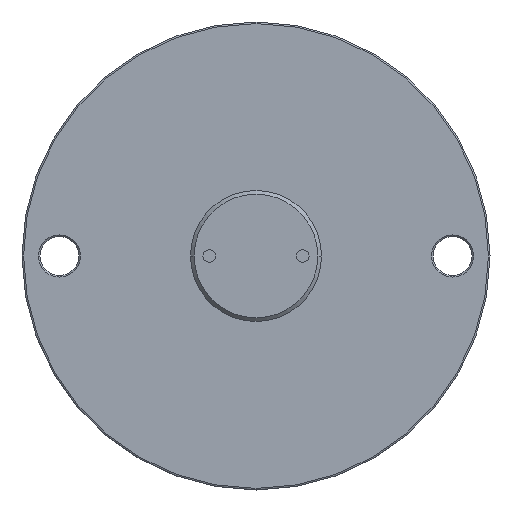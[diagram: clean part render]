
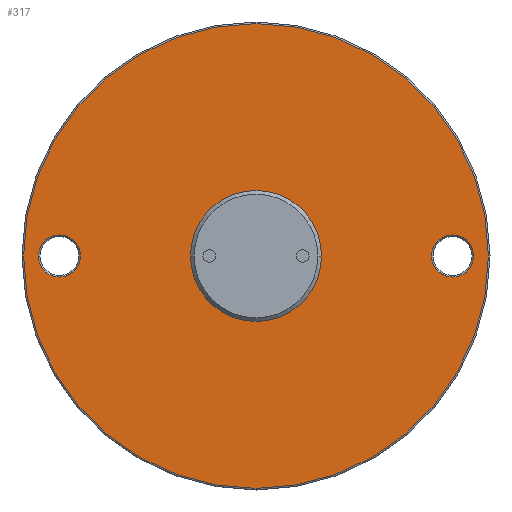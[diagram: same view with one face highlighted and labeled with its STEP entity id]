
A CAD part, front view. The second image highlights one B-rep face of the part: STEP entity #317.
In plain terms, the highlighted planar face has unit normal (0, -1, 0).
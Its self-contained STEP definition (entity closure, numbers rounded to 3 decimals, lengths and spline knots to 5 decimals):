
#317=ADVANCED_FACE('202:8',(#523,#524,#525,#526),#527,.T.);
#523=FACE_OUTER_BOUND('',#3900,.T.);
#524=FACE_BOUND('',#3901,.T.);
#525=FACE_BOUND('',#3902,.T.);
#526=FACE_BOUND('',#3903,.T.);
#527=PLANE('',#3904);
#3900=EDGE_LOOP('',(#4597,#4598));
#3901=EDGE_LOOP('',(#4599,#4600));
#3902=EDGE_LOOP('',(#4601,#4602));
#3903=EDGE_LOOP('',(#4603,#4604));
#3904=AXIS2_PLACEMENT_3D('',#4605,#4606,#4607);
#4597=ORIENTED_EDGE('',*,*,#4909,.F.);
#4598=ORIENTED_EDGE('',*,*,#4878,.F.);
#4599=ORIENTED_EDGE('',*,*,#4910,.F.);
#4600=ORIENTED_EDGE('',*,*,#4898,.F.);
#4601=ORIENTED_EDGE('',*,*,#4911,.T.);
#4602=ORIENTED_EDGE('',*,*,#4884,.T.);
#4603=ORIENTED_EDGE('',*,*,#4908,.F.);
#4604=ORIENTED_EDGE('',*,*,#4905,.F.);
#4605=CARTESIAN_POINT('',(0.0745,0.0,0.));
#4606=DIRECTION('',(0.,-1.0,0.));
#4607=DIRECTION('',(-1.0,0.,0.));
#4878=EDGE_CURVE('202:47',#5232,#5235,#5236,.T.);
#4884=EDGE_CURVE('202:53',#5240,#5244,#5246,.T.);
#4898=EDGE_CURVE('202:50',#5269,#5271,#5272,.T.);
#4905=EDGE_CURVE('202:44',#5280,#5282,#5283,.T.);
#4908=EDGE_CURVE('202:44',#5282,#5280,#5286,.T.);
#4909=EDGE_CURVE('202:47',#5235,#5232,#5287,.T.);
#4910=EDGE_CURVE('202:50',#5271,#5269,#5288,.T.);
#4911=EDGE_CURVE('202:53',#5244,#5240,#5289,.T.);
#5232=VERTEX_POINT('',#7974);
#5235=VERTEX_POINT('',#7977);
#5236=CIRCLE('',#7978,0.0745);
#5240=VERTEX_POINT('',#7982);
#5244=VERTEX_POINT('',#7987);
#5246=CIRCLE('',#7990,0.021);
#5269=VERTEX_POINT('',#8019);
#5271=VERTEX_POINT('',#8022);
#5272=CIRCLE('',#8023,0.00675);
#5280=VERTEX_POINT('',#8034);
#5282=VERTEX_POINT('',#8037);
#5283=CIRCLE('',#8038,0.00675);
#5286=CIRCLE('',#8042,0.00675);
#5287=CIRCLE('',#8043,0.0745);
#5288=CIRCLE('',#8044,0.00675);
#5289=CIRCLE('',#8045,0.021);
#7974=CARTESIAN_POINT('',(0.,0.,0.0745));
#7977=CARTESIAN_POINT('',(0.,0.,-0.0745));
#7978=AXIS2_PLACEMENT_3D('',#8442,#8443,#8444);
#7982=CARTESIAN_POINT('',(0.021,0.,0.));
#7987=CARTESIAN_POINT('',(-0.021,0.,0.));
#7990=AXIS2_PLACEMENT_3D('',#8456,#8457,#8458);
#8019=CARTESIAN_POINT('',(0.05625,0.,0.));
#8022=CARTESIAN_POINT('',(0.06975,0.,0.));
#8023=AXIS2_PLACEMENT_3D('',#8484,#8485,#8486);
#8034=CARTESIAN_POINT('',(-0.06975,0.,0.));
#8037=CARTESIAN_POINT('',(-0.05625,0.,0.));
#8038=AXIS2_PLACEMENT_3D('',#8497,#8498,#8499);
#8042=AXIS2_PLACEMENT_3D('',#8504,#8505,#8506);
#8043=AXIS2_PLACEMENT_3D('',#8507,#8508,#8509);
#8044=AXIS2_PLACEMENT_3D('',#8510,#8511,#8512);
#8045=AXIS2_PLACEMENT_3D('',#8513,#8514,#8515);
#8442=CARTESIAN_POINT('',(0.,0.,0.));
#8443=DIRECTION('',(0.,1.0,0.));
#8444=DIRECTION('',(1.0,0.,0.));
#8456=CARTESIAN_POINT('',(0.,0.,0.));
#8457=DIRECTION('',(0.,1.0,0.));
#8458=DIRECTION('',(1.0,0.,0.));
#8484=CARTESIAN_POINT('',(0.063,0.,0.));
#8485=DIRECTION('',(0.,-1.0,0.));
#8486=DIRECTION('',(-1.0,0.,0.));
#8497=CARTESIAN_POINT('',(-0.063,0.,0.));
#8498=DIRECTION('',(0.,-1.0,0.));
#8499=DIRECTION('',(-1.0,0.,0.));
#8504=CARTESIAN_POINT('',(-0.063,0.,0.));
#8505=DIRECTION('',(0.,-1.0,0.));
#8506=DIRECTION('',(-1.0,0.,0.));
#8507=CARTESIAN_POINT('',(0.,0.,0.));
#8508=DIRECTION('',(0.,1.0,0.));
#8509=DIRECTION('',(1.0,0.,0.));
#8510=CARTESIAN_POINT('',(0.063,0.,0.));
#8511=DIRECTION('',(0.,-1.0,0.));
#8512=DIRECTION('',(-1.0,0.,0.));
#8513=CARTESIAN_POINT('',(0.,0.,0.));
#8514=DIRECTION('',(0.,1.0,0.));
#8515=DIRECTION('',(1.0,0.,0.));
